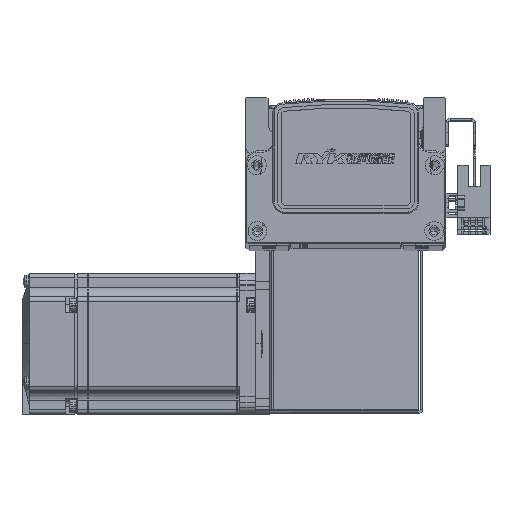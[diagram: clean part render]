
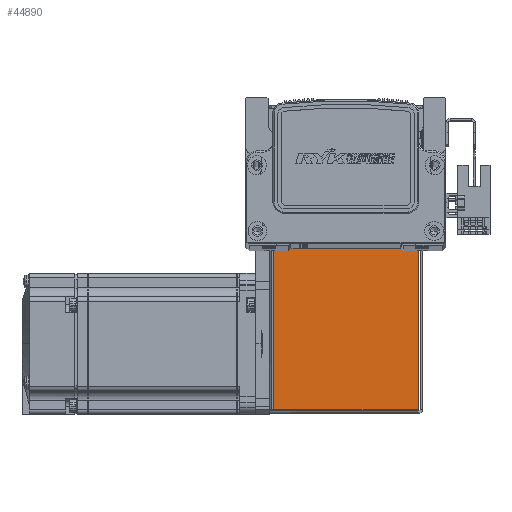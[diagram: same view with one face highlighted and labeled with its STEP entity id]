
A CAD part, top view. The second image highlights one B-rep face of the part: STEP entity #44890.
In plain terms, the highlighted planar face has unit normal (0, 0, 1) as drawn and (0, 0, -1) by its records, which use the part's own axes.
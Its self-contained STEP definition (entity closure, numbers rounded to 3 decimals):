
#6381 = AXIS2_PLACEMENT_3D ( 'NONE', #45736, #45775, #45744 ) ;
#7647 = LINE ( 'NONE', #11879, #7652 ) ;
#7652 = VECTOR ( 'NONE', #11881, 1000. ) ;
#10102 = CARTESIAN_POINT ( 'NONE',  ( 30.763, 72.5, -35. ) ) ;
#10115 = CARTESIAN_POINT ( 'NONE',  ( -30.793, 72.5, -35. ) ) ;
#10127 = CARTESIAN_POINT ( 'NONE',  ( -30.793, 0.737, -35. ) ) ;
#11176 = CARTESIAN_POINT ( 'NONE',  ( 30.763, 0.737, -35. ) ) ;
#11879 = CARTESIAN_POINT ( 'NONE',  ( 32.5, 0.737, -35. ) ) ;
#11881 = DIRECTION ( 'NONE',  ( 1., 0., 0. ) ) ;
#16726 = CARTESIAN_POINT ( 'NONE',  ( 30.763, 72.5, -35. ) ) ;
#16741 = DIRECTION ( 'NONE',  ( 0., -1., 0. ) ) ;
#16832 = CARTESIAN_POINT ( 'NONE',  ( 0., 72.5, -35. ) ) ;
#16892 = DIRECTION ( 'NONE',  ( 1., 0., 0. ) ) ;
#17015 = DIRECTION ( 'NONE',  ( 0., 1., 0. ) ) ;
#17018 = CARTESIAN_POINT ( 'NONE',  ( -30.793, 0., -35. ) ) ;
#18004 = LINE ( 'NONE', #17018, #18120 ) ;
#18120 = VECTOR ( 'NONE', #17015, 1000. ) ;
#18923 = VECTOR ( 'NONE', #16741, 1000. ) ;
#18955 = LINE ( 'NONE', #16726, #18923 ) ;
#19024 = LINE ( 'NONE', #16832, #19026 ) ;
#19026 = VECTOR ( 'NONE', #16892, 1000. ) ;
#19038 = EDGE_LOOP ( 'NONE', ( #33142, #33186, #33323, #33235 ) ) ;
#33142 = ORIENTED_EDGE ( 'NONE', *, *, #65572, .T. ) ;
#33186 = ORIENTED_EDGE ( 'NONE', *, *, #65673, .F. ) ;
#33235 = ORIENTED_EDGE ( 'NONE', *, *, #65580, .T. ) ;
#33323 = ORIENTED_EDGE ( 'NONE', *, *, #65617, .T. ) ;
#35873 = VERTEX_POINT ( 'NONE', #11176 ) ;
#35923 = VERTEX_POINT ( 'NONE', #10127 ) ;
#35974 = VERTEX_POINT ( 'NONE', #10102 ) ;
#35990 = VERTEX_POINT ( 'NONE', #10115 ) ;
#44890 = ADVANCED_FACE ( 'NONE', ( #46903 ), #45752, .F. ) ;
#45736 = CARTESIAN_POINT ( 'NONE',  ( 0., 0., -35. ) ) ;
#45744 = DIRECTION ( 'NONE',  ( 0., -1., 0. ) ) ;
#45752 = PLANE ( 'NONE',  #6381 ) ;
#45775 = DIRECTION ( 'NONE',  ( 0., 0., 1. ) ) ;
#46903 = FACE_OUTER_BOUND ( 'NONE', #19038, .T. ) ;
#65572 = EDGE_CURVE ( 'NONE', #35974, #35873, #18955, .T. ) ;
#65580 = EDGE_CURVE ( 'NONE', #35990, #35974, #19024, .T. ) ;
#65617 = EDGE_CURVE ( 'NONE', #35923, #35990, #18004, .T. ) ;
#65673 = EDGE_CURVE ( 'NONE', #35923, #35873, #7647, .T. ) ;
